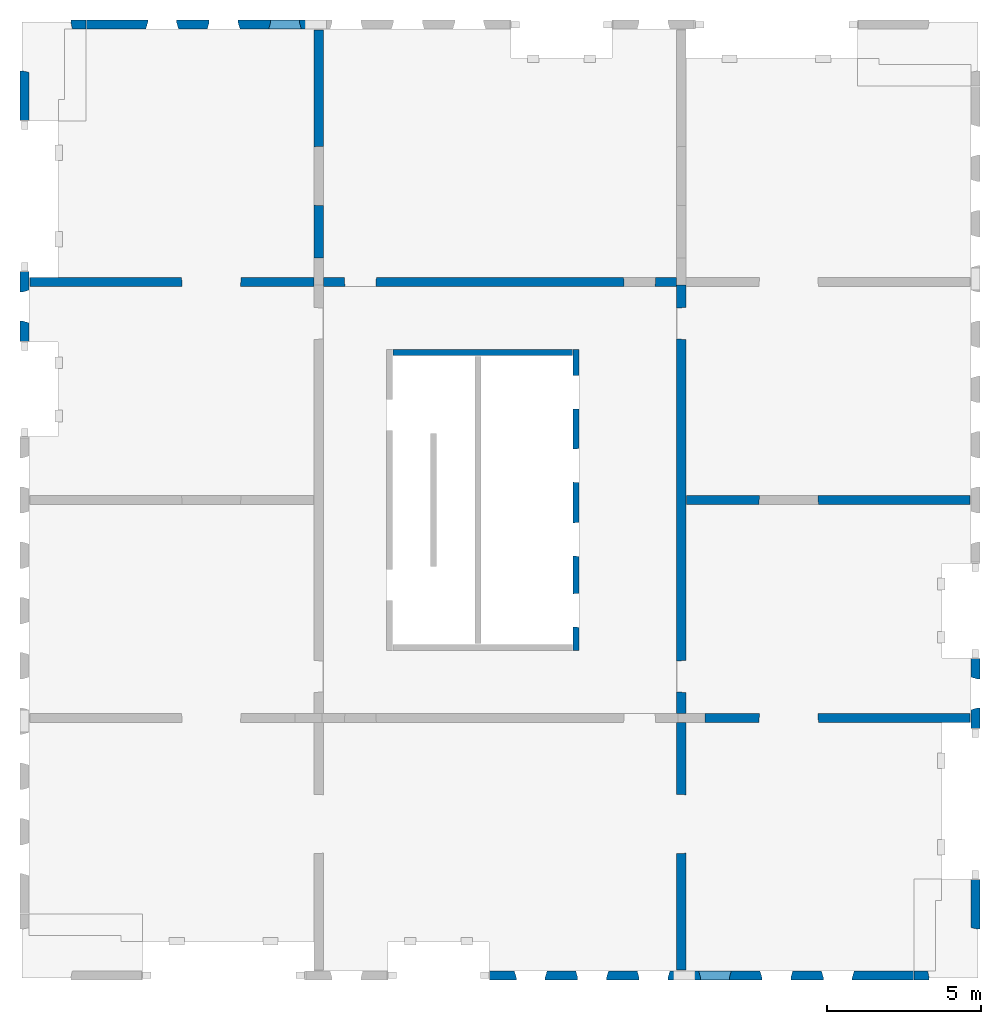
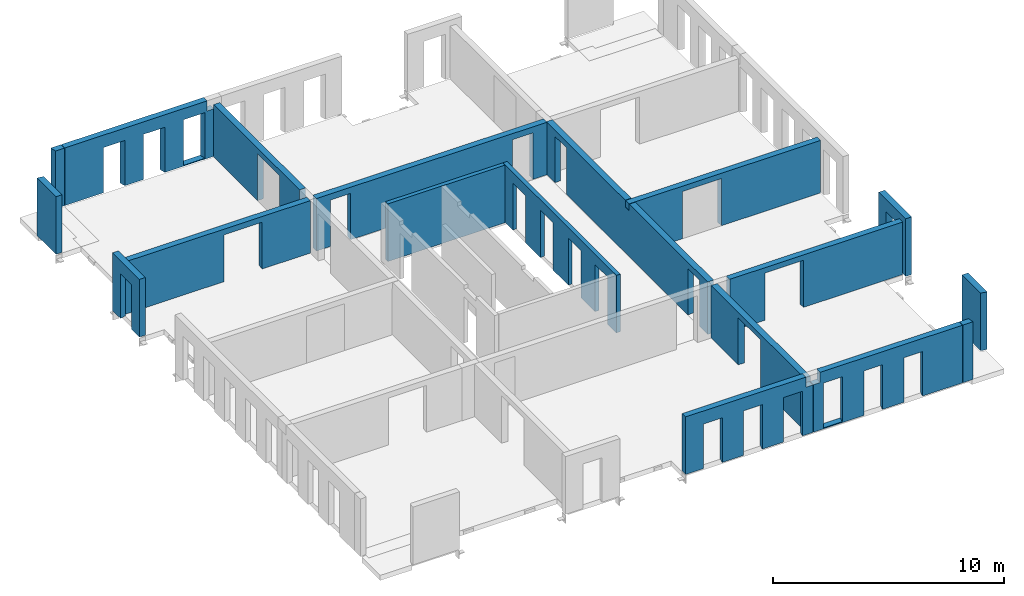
# One storey, part 3 of 4: 18 walls, 33 openings.
"""IFC2X3 building model written with IfcOpenShell, lengths in millimetres."""

from ifc_helpers import new_model, entity, si_unit, converted_unit, derived_unit, direction, frame, frame_2d, origin, origin_2d_with_axis, place, context, subcontext, project, spatial, rectangle, extrude, faceted_brep, material, layer, layer_set, layer_usage, type_object, element, save


model = new_model("IFC2X3")

# Units and contexts
model_context = context("Model", 3, precision=0.01, world=origin(), true_north=direction((6.12303176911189e-17, 1.0)))
body_context = subcontext(model_context, "Body", "Model", "MODEL_VIEW")
ifc_project = project(units=[si_unit("LENGTHUNIT", "METRE", prefix="MILLI"), si_unit("AREAUNIT", "SQUARE_METRE"), si_unit("VOLUMEUNIT", "CUBIC_METRE"), converted_unit("PLANEANGLEUNIT", "DEGREE", entity("IfcRatioMeasure", 0.0174532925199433), si_unit("PLANEANGLEUNIT", "RADIAN"), dimensions=[0, 0, 0, 0, 0, 0, 0]), si_unit("MASSUNIT", "GRAM", prefix="KILO"), derived_unit("MASSDENSITYUNIT", [(si_unit("MASSUNIT", "GRAM", prefix="KILO"), 1), (si_unit("LENGTHUNIT", "METRE"), -3)]), si_unit("TIMEUNIT", "SECOND"), si_unit("FREQUENCYUNIT", "HERTZ"), si_unit("THERMODYNAMICTEMPERATUREUNIT", "DEGREE_CELSIUS"), derived_unit("THERMALTRANSMITTANCEUNIT", [(si_unit("MASSUNIT", "GRAM", prefix="KILO"), 1), (si_unit("THERMODYNAMICTEMPERATUREUNIT", "KELVIN"), -1), (si_unit("TIMEUNIT", "SECOND"), -3)]), derived_unit("VOLUMETRICFLOWRATEUNIT", [(si_unit("LENGTHUNIT", "METRE"), 3), (si_unit("TIMEUNIT", "SECOND"), -1)]), si_unit("ELECTRICCURRENTUNIT", "AMPERE"), si_unit("ELECTRICVOLTAGEUNIT", "VOLT"), si_unit("POWERUNIT", "WATT"), si_unit("FORCEUNIT", "NEWTON", prefix="KILO"), si_unit("ILLUMINANCEUNIT", "LUX"), si_unit("LUMINOUSFLUXUNIT", "LUMEN"), si_unit("LUMINOUSINTENSITYUNIT", "CANDELA"), derived_unit("USERDEFINED", [(si_unit("MASSUNIT", "GRAM", prefix="KILO"), -1), (si_unit("LENGTHUNIT", "METRE"), -2), (si_unit("TIMEUNIT", "SECOND"), 3), (si_unit("LUMINOUSFLUXUNIT", "LUMEN"), 1)]), derived_unit("LINEARVELOCITYUNIT", [(si_unit("LENGTHUNIT", "METRE"), 1), (si_unit("TIMEUNIT", "SECOND"), -1)]), si_unit("PRESSUREUNIT", "PASCAL"), derived_unit("USERDEFINED", [(si_unit("LENGTHUNIT", "METRE"), -2), (si_unit("MASSUNIT", "GRAM", prefix="KILO"), 1), (si_unit("TIMEUNIT", "SECOND"), -2)])], contexts=[model_context])

# Site, building, storey
site_placement = place(None, origin())
site = spatial("IfcSite", under=ifc_project, at=site_placement, Name="Default", CompositionType="ELEMENT")
building_placement = place(site_placement, origin())
building = spatial("IfcBuilding", under=site, at=building_placement, Name="niet gebruiken", CompositionType="ELEMENT")
storey_placement = place(building_placement, frame((0.0, 0.0, 137340.0)))
storey = spatial("IfcBuildingStorey", under=building, at=storey_placement, Name="44 vierenveertigste verdieping", CompositionType="ELEMENT", Elevation=137340.0)

# Wall, openings
ifc_material = material(Name="NLRS_f2_beton prefab")
ifc_layer_1 = layer(ifc_material, 200.0)
ifc_layer_set_1 = layer_set([ifc_layer_1], Name="Basic Wall:NLRS_22.21_WA_beton prefab d=200_gen")
ifc_layer_usage_1 = layer_usage(ifc_layer_set_1, "AXIS2", "NEGATIVE", 100.0)
wall_type_1 = type_object("IfcWallType", Name="Basic Wall:NLRS_22.21_WA_beton prefab d=200_gen", PredefinedType="STANDARD", material=ifc_layer_set_1)
wall_1_placement = place(storey_placement, frame((144230.0, 22400.0, -50.0), z_axis=(0.0, 0.0, 1.0), x_axis=(0.0, -1.0, 0.0)))
wall_1 = element("IfcWallStandardCase", 1, at=wall_1_placement, inside=storey, type_object=wall_type_1, material=ifc_layer_usage_1, Name="Basic Wall:NLRS_22.21_WA_beton prefab d=200_gen", ObjectType="Basic Wall:NLRS_22.21_WA_beton prefab d=200_gen", context=body_context, shape_type="SweptSolid", body=[
    extrude(rectangle(XDim=9800.0, YDim=199.999999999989, at=frame_2d((4900.0, -3.69482222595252e-13), x_axis=(-1.0, 0.0))), origin(), (0.0, 0.0, 1.0), 3040.0),
])
opening_1_placement = place(wall_1_placement, frame((9047.0, -100.0, 0.0)))
element("IfcOpeningElement", 2, at=opening_1_placement, cuts=wall_1, Name="Basic Wall:NLRS_22.21_WA_beton prefab d=200_gen", ObjectType="Opening", context=body_context, shape_type="Brep", body=[
    faceted_brep([(-1104.0, 200.0, 2502.0), (-1104.0, 200.0, 0.0), (-1092.0, 0.0, 0.0), (-1092.0, 0.0, 2490.0), (0.0, 200.0, 0.0), (-12.0, 0.0, 0.0), (-12.0, 0.0, 2490.0), (0.0, 200.0, 2502.0)], [[[0, 1, 2, 3]], [[1, 4, 5, 2]], [[6, 3, 2, 5]], [[7, 4, 1, 0]], [[7, 0, 3, 6]], [[4, 7, 6, 5]]]),
])
opening_2_placement = place(wall_1_placement, frame((6737.0, -100.0, 0.0)))
element("IfcOpeningElement", 3, at=opening_2_placement, cuts=wall_1, Name="Basic Wall:NLRS_22.21_WA_beton prefab d=200_gen", ObjectType="Opening", context=body_context, shape_type="Brep", body=[
    faceted_brep([(-1104.0, 200.0, 2502.0), (-1104.0, 200.0, 0.0), (-1092.0, 0.0, 0.0), (-1092.0, 0.0, 2490.0), (0.0, 200.0, 0.0), (-12.0, 0.0, 0.0), (-12.0, 0.0, 2490.0), (0.0, 200.0, 2502.0)], [[[0, 1, 2, 3]], [[1, 4, 5, 2]], [[6, 3, 2, 5]], [[7, 4, 1, 0]], [[7, 0, 3, 6]], [[4, 7, 6, 5]]]),
])
opening_3_placement = place(wall_1_placement, frame((4332.0, -100.0, 0.0)))
element("IfcOpeningElement", 4, at=opening_3_placement, cuts=wall_1, Name="Basic Wall:NLRS_22.21_WA_beton prefab d=200_gen", ObjectType="Opening", context=body_context, shape_type="Brep", body=[
    faceted_brep([(-1104.0, 200.0, 2502.0), (-1104.0, 200.0, 0.0), (-1092.0, 0.0, 0.0), (-1092.0, 0.0, 2490.0), (0.0, 200.0, 0.0), (-12.0, 0.0, 0.0), (-12.0, 0.0, 2490.0), (0.0, 200.0, 2502.0)], [[[0, 1, 2, 3]], [[1, 4, 5, 2]], [[6, 3, 2, 5]], [[7, 4, 1, 0]], [[7, 0, 3, 6]], [[4, 7, 6, 5]]]),
])
opening_4_placement = place(wall_1_placement, frame((1942.0, -100.0, 0.0)))
element("IfcOpeningElement", 5, at=opening_4_placement, cuts=wall_1, Name="Basic Wall:NLRS_22.21_WA_beton prefab d=200_gen", ObjectType="Opening", context=body_context, shape_type="Brep", body=[
    faceted_brep([(-1104.0, 200.0, 2502.0), (-1104.0, 200.0, 0.0), (-1092.0, 0.0, 0.0), (-1092.0, 0.0, 2490.0), (0.0, 200.0, 0.0), (-12.0, 0.0, 0.0), (-12.0, 0.0, 2490.0), (0.0, 200.0, 2502.0)], [[[0, 1, 2, 3]], [[1, 4, 5, 2]], [[6, 3, 2, 5]], [[7, 4, 1, 0]], [[7, 0, 3, 6]], [[4, 7, 6, 5]]]),
])

# Wall
ifc_layer_usage_2 = layer_usage(ifc_layer_set_1, "AXIS2", "NEGATIVE", 100.0)
wall_2_placement = place(storey_placement, frame((138270.0, 22300.0, -50.0)))
element("IfcWallStandardCase", 6, at=wall_2_placement, inside=storey, type_object=wall_type_1, material=ifc_layer_usage_2, Name="Basic Wall:NLRS_22.21_WA_beton prefab d=200_gen", ObjectType="Basic Wall:NLRS_22.21_WA_beton prefab d=200_gen", context=body_context, shape_type="SweptSolid", body=[
    extrude(rectangle(XDim=5839.99999999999, YDim=199.999999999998, at=frame_2d((2919.99999999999, -7.60280727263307e-13), x_axis=(-1.0, 0.0))), origin(), (0.0, 0.0, 1.0), 3040.0),
])

# Wall, opening
ifc_layer_2 = layer(ifc_material, 300.0)
ifc_layer_set_2 = layer_set([ifc_layer_2], Name="Basic Wall:NLRS_22.21_WA_beton prefab d=300_gen")
ifc_layer_usage_3 = layer_usage(ifc_layer_set_2, "AXIS2", "NEGATIVE", 150.0)
wall_type_2 = type_object("IfcWallType", Name="Basic Wall:NLRS_22.21_WA_beton prefab d=300_gen", PredefinedType="STANDARD", material=ifc_layer_set_2)
wall_3_placement = place(storey_placement, frame((147650.0, 10250.0, -70.0), z_axis=(0.0, 0.0, 1.0), x_axis=(0.0, -1.0, 0.0)))
wall_3 = element("IfcWallStandardCase", 7, at=wall_3_placement, inside=storey, type_object=wall_type_2, material=ifc_layer_usage_3, Name="Basic Wall:NLRS_22.21_WA_beton prefab d=300_gen", ObjectType="Basic Wall:NLRS_22.21_WA_beton prefab d=300_gen", context=body_context, shape_type="SweptSolid", body=[
    extrude(rectangle(XDim=8059.99999999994, YDim=300.000000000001, at=frame_2d((4029.99999999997, 3.69482222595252e-13), x_axis=(-1.0, 0.0))), origin(), (0.0, 0.0, 1.0), 2769.99999999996),
])
opening_5_placement = place(wall_3_placement, frame((4268.0, -150.0, 0.0)))
element("IfcOpeningElement", 8, at=opening_5_placement, cuts=wall_3, Name="Basic Wall:NLRS_22.21_WA_beton prefab d=300_gen", ObjectType="Opening", context=body_context, shape_type="Brep", body=[
    faceted_brep([(-18.0, 300.0, 2470.0), (-18.0, 300.0, 0.0), (-1918.0, 300.0, 0.0), (-1918.0, 300.0, 2470.0), (0.0, 0.0, 2488.0), (-1936.0, 0.0, 2488.0), (-1936.0, 0.0, 0.0), (0.0, 0.0, 0.0)], [[[0, 1, 2, 3]], [[4, 5, 6, 7]], [[4, 0, 3, 5]], [[5, 3, 2, 6]], [[6, 2, 1, 7]], [[7, 1, 0, 4]]]),
])

# Wall, openings
ifc_layer_usage_4 = layer_usage(ifc_layer_set_2, "AXIS2", "NEGATIVE", 150.0)
wall_4_placement = place(storey_placement, frame((157060.0, 17500.0, -70.0), z_axis=(0.0, 0.0, 1.0), x_axis=(-1.0, 0.0, 0.0)))
wall_4 = element("IfcWallStandardCase", 9, at=wall_4_placement, inside=storey, type_object=wall_type_2, material=ifc_layer_usage_4, Name="Basic Wall:NLRS_22.21_WA_beton prefab d=300_gen", ObjectType="Basic Wall:NLRS_22.21_WA_beton prefab d=300_gen", context=body_context, shape_type="SweptSolid", body=[
    extrude(rectangle(XDim=9559.9999999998, YDim=300.000000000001, at=frame_2d((4779.9999999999, -1.84741111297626e-13), x_axis=(-1.0, 0.0))), origin(), (0.0, 0.0, 1.0), 2769.99999999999),
])
opening_6_placement = place(wall_4_placement, frame((6878.0, 150.0, 0.0)))
element("IfcOpeningElement", 10, at=opening_6_placement, cuts=wall_4, Name="Basic Wall:NLRS_22.21_WA_beton prefab d=300_gen", ObjectType="Opening", context=body_context, shape_type="Brep", body=[
    faceted_brep([(-18.0, -300.0, 2470.0), (-1918.0, -300.0, 2470.0), (-1918.0, -300.0, 0.0), (-18.0, -300.0, 0.0), (0.0, 0.0, 2488.0), (0.0, 0.0, 0.0), (-1936.0, 0.0, 0.0), (-1936.0, 0.0, 2488.0)], [[[0, 1, 2, 3]], [[4, 5, 6, 7]], [[4, 7, 1, 0]], [[7, 6, 2, 1]], [[6, 5, 3, 2]], [[5, 4, 0, 3]]]),
])
opening_7_placement = place(wall_4_placement, origin())
element("IfcOpeningElement", 11, at=opening_7_placement, cuts=wall_4, Name="Basic Wall:NLRS_22.21_WA_beton prefab d=300_gen", ObjectType="Opening", context=body_context, shape_type="SweptSolid", body=[
    extrude(rectangle(XDim=2439.99999999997, YDim=319.999999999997, at=frame_2d((0.0, 0.0), x_axis=(0.0, 1.0))), frame((9400.0, 150.0, 1220.0), z_axis=(0.0, -1.0, 0.0), x_axis=(1.0, 0.0, 0.0)), (0.0, 0.0, 1.0), 300.0),
])

# Wall, opening
ifc_layer_usage_5 = layer_usage(ifc_layer_set_2, "AXIS2", "NEGATIVE", 150.0)
wall_5_placement = place(storey_placement, frame((135700.0, 24600.0, -70.0), z_axis=(0.0, 0.0, 1.0), x_axis=(-1.0, 0.0, 0.0)))
wall_5 = element("IfcWallStandardCase", 12, at=wall_5_placement, inside=storey, type_object=wall_type_2, material=ifc_layer_usage_5, Name="Basic Wall:NLRS_22.21_WA_beton prefab d=300_gen", ObjectType="Basic Wall:NLRS_22.21_WA_beton prefab d=300_gen", context=body_context, shape_type="SweptSolid", body=[
    extrude(rectangle(XDim=9259.99999999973, YDim=300.000000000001, at=frame_2d((4629.99999999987, -2.41584530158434e-13), x_axis=(-1.0, 0.0))), origin(), (0.0, 0.0, 1.0), 2769.99999999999),
])
opening_8_placement = place(wall_5_placement, frame((4318.0, 150.0, 0.0)))
element("IfcOpeningElement", 13, at=opening_8_placement, cuts=wall_5, Name="Basic Wall:NLRS_22.21_WA_beton prefab d=300_gen", ObjectType="Opening", context=body_context, shape_type="Brep", body=[
    faceted_brep([(-1918.0, 0.0, 2470.0), (-18.0, 0.0, 2470.0), (-18.0, 0.0, 0.0), (-1918.0, 0.0, 0.0), (-1936.0, -300.0, 2488.0), (-1936.0, -300.0, 0.0), (0.0, -300.0, 0.0), (0.0, -300.0, 2488.0)], [[[0, 1, 2, 3]], [[4, 5, 6, 7]], [[4, 7, 1, 0]], [[7, 6, 2, 1]], [[6, 5, 3, 2]], [[5, 4, 0, 3]]]),
])

ifc_layer_usage_6 = layer_usage(ifc_layer_set_2, "AXIS2", "NEGATIVE", 150.0)
wall_6_placement = place(storey_placement, frame((148430.0, 10400.0, -70.0)))
wall_6 = element("IfcWallStandardCase", 14, at=wall_6_placement, inside=storey, type_object=wall_type_2, material=ifc_layer_usage_6, Name="Basic Wall:NLRS_22.21_WA_beton prefab d=300_gen", ObjectType="Basic Wall:NLRS_22.21_WA_beton prefab d=300_gen", context=body_context, shape_type="SweptSolid", body=[
    extrude(rectangle(XDim=8630.00000000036, YDim=300.000000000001, at=frame_2d((4315.00000000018, 0.0), x_axis=(-1.0, 0.0))), origin(), (0.0, 0.0, 1.0), 2769.99999999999),
])
opening_9_placement = place(wall_6_placement, frame((1752.0, -150.0, 0.0)))
element("IfcOpeningElement", 15, at=opening_9_placement, cuts=wall_6, Name="Basic Wall:NLRS_22.21_WA_beton prefab d=300_gen", ObjectType="Opening", context=body_context, shape_type="Brep", body=[
    faceted_brep([(18.0, 300.0, 2470.0), (1918.0, 300.0, 2470.0), (1918.0, 300.0, 0.0), (18.0, 300.0, 0.0), (0.0, 0.0, 2488.0), (0.0, 0.0, 0.0), (1936.0, 0.0, 0.0), (1936.0, 0.0, 2488.0)], [[[0, 1, 2, 3]], [[4, 5, 6, 7]], [[4, 7, 1, 0]], [[7, 6, 2, 1]], [[6, 5, 3, 2]], [[5, 4, 0, 3]]]),
])

ifc_layer_usage_7 = layer_usage(ifc_layer_set_2, "AXIS2", "NEGATIVE", 150.0)
wall_7_placement = place(storey_placement, frame((135850.0, 25380.0, -70.0), z_axis=(0.0, 0.0, 1.0), x_axis=(0.0, 1.0, 0.0)))
wall_7 = element("IfcWallStandardCase", 16, at=wall_7_placement, inside=storey, type_object=wall_type_2, material=ifc_layer_usage_7, Name="Basic Wall:NLRS_22.21_WA_beton prefab d=300_gen", ObjectType="Basic Wall:NLRS_22.21_WA_beton prefab d=300_gen", context=body_context, shape_type="SweptSolid", body=[
    extrude(rectangle(XDim=7430.00000000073, YDim=300.000000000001, at=frame_2d((3715.00000000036, -5.62749846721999e-12), x_axis=(-1.0, 0.0))), origin(), (0.0, 0.0, 1.0), 2769.99999999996),
])
opening_10_placement = place(wall_7_placement, frame((1702.0, 150.0, 0.0)))
element("IfcOpeningElement", 17, at=opening_10_placement, cuts=wall_7, Name="Basic Wall:NLRS_22.21_WA_beton prefab d=300_gen", ObjectType="Opening", context=body_context, shape_type="Brep", body=[
    faceted_brep([(1918.0, 0.0, 2470.0), (1918.0, 0.0, 0.0), (18.0, 0.0, 0.0), (18.0, 0.0, 2470.0), (1936.0, -300.0, 2488.0), (0.0, -300.0, 2488.0), (0.0, -300.0, 0.0), (1936.0, -300.0, 0.0)], [[[0, 1, 2, 3]], [[4, 5, 6, 7]], [[4, 0, 3, 5]], [[5, 3, 2, 6]], [[6, 2, 1, 7]], [[7, 1, 0, 4]]]),
])

# Wall, openings
ifc_layer_usage_8 = layer_usage(ifc_layer_set_2, "AXIS2", "NEGATIVE", 150.0)
wall_8_placement = place(storey_placement, frame((147650.0, 24500.0, -70.0), z_axis=(0.0, 0.0, 1.0), x_axis=(0.0, -1.0, 0.0)))
wall_8 = element("IfcWallStandardCase", 18, at=wall_8_placement, inside=storey, type_object=wall_type_2, material=ifc_layer_usage_8, Name="Basic Wall:NLRS_22.21_WA_beton prefab d=300_gen", ObjectType="Basic Wall:NLRS_22.21_WA_beton prefab d=300_gen", context=body_context, shape_type="SweptSolid", body=[
    extrude(rectangle(XDim=13949.9999999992, YDim=300.000000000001, at=frame_2d((6974.9999999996, 4.2632564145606e-14), x_axis=(-1.0, 0.0))), origin(), (0.0, 0.0, 1.0), 2769.99999999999),
])
opening_11_placement = place(wall_8_placement, frame((13268.0, -150.0, 0.0)))
element("IfcOpeningElement", 19, at=opening_11_placement, cuts=wall_8, Name="Basic Wall:NLRS_22.21_WA_beton prefab d=300_gen", ObjectType="Opening", context=body_context, shape_type="Brep", body=[
    faceted_brep([(-1042.0, 300.0, 2466.0), (-1042.0, 300.0, 0.0), (-1024.0, 0.0, 0.0), (-1024.0, 0.0, 2448.0), (0.0, 300.0, 0.0), (-18.0, 0.0, 0.0), (-18.0, 0.0, 2448.0), (0.0, 300.0, 2466.0)], [[[0, 1, 2, 3]], [[1, 4, 5, 2]], [[6, 3, 2, 5]], [[7, 4, 1, 0]], [[7, 0, 3, 6]], [[4, 7, 6, 5]]]),
])
opening_12_placement = place(wall_8_placement, frame((1774.0, -150.0, 0.0)))
element("IfcOpeningElement", 20, at=opening_12_placement, cuts=wall_8, Name="Basic Wall:NLRS_22.21_WA_beton prefab d=300_gen", ObjectType="Opening", context=body_context, shape_type="Brep", body=[
    faceted_brep([(-1042.0, 300.0, 2466.0), (-1042.0, 300.0, 0.0), (-1024.0, 0.0, 0.0), (-1024.0, 0.0, 2448.0), (0.0, 300.0, 0.0), (-18.0, 0.0, 0.0), (-18.0, 0.0, 2448.0), (0.0, 300.0, 2466.0)], [[[0, 1, 2, 3]], [[1, 4, 5, 2]], [[6, 3, 2, 5]], [[7, 4, 1, 0]], [[7, 0, 3, 6]], [[4, 7, 6, 5]]]),
])
opening_13_placement = place(wall_8_placement, origin())
element("IfcOpeningElement", 21, at=opening_13_placement, cuts=wall_8, Name="Basic Wall:NLRS_22.21_WA_beton prefab d=300_gen", ObjectType="Opening", context=body_context, shape_type="SweptSolid", body=[
    extrude(rectangle(XDim=350.000000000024, YDim=340.000000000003, at=frame_2d((-1.08002495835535e-12, 0.0), x_axis=(0.0, 1.0))), frame((7000.0, 150.0, 2595.0), z_axis=(0.0, -1.0, 0.0), x_axis=(-1.0, 0.0, 0.0)), (0.0, 0.0, 1.0), 300.0),
])

ifc_layer_usage_9 = layer_usage(ifc_layer_set_2, "AXIS2", "NEGATIVE", 150.0)
wall_9_placement = place(storey_placement, frame((136000.0, 24600.0, -70.0)))
wall_9 = element("IfcWallStandardCase", 22, at=wall_9_placement, inside=storey, type_object=wall_type_2, material=ifc_layer_usage_9, Name="Basic Wall:NLRS_22.21_WA_beton prefab d=300_gen", ObjectType="Basic Wall:NLRS_22.21_WA_beton prefab d=300_gen", context=body_context, shape_type="SweptSolid", body=[
    extrude(rectangle(XDim=11500.0, YDim=300.000000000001, at=frame_2d((5750.0, -1.08002495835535e-12), x_axis=(-1.0, 0.0))), origin(), (0.0, 0.0, 1.0), 2769.99999999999),
])
opening_14_placement = place(wall_9_placement, frame((682.0, -150.0, 0.0)))
element("IfcOpeningElement", 23, at=opening_14_placement, cuts=wall_9, Name="Basic Wall:NLRS_22.21_WA_beton prefab d=300_gen", ObjectType="Opening", context=body_context, shape_type="Brep", body=[
    faceted_brep([(0.0, 300.0, 2466.0), (0.0, 300.0, 0.0), (18.0, 0.0, 0.0), (18.0, 0.0, 2448.0), (1042.0, 300.0, 0.0), (1024.0, 0.0, 0.0), (1024.0, 0.0, 2448.0), (1042.0, 300.0, 2466.0)], [[[0, 1, 2, 3]], [[1, 4, 5, 2]], [[6, 3, 2, 5]], [[7, 4, 1, 0]], [[7, 0, 3, 6]], [[4, 7, 6, 5]]]),
])
opening_15_placement = place(wall_9_placement, frame((9776.0, -150.0, 0.0)))
element("IfcOpeningElement", 24, at=opening_15_placement, cuts=wall_9, Name="Basic Wall:NLRS_22.21_WA_beton prefab d=300_gen", ObjectType="Opening", context=body_context, shape_type="Brep", body=[
    faceted_brep([(0.0, 300.0, 2466.0), (0.0, 300.0, 0.0), (18.0, 0.0, 0.0), (18.0, 0.0, 2448.0), (1042.0, 300.0, 0.0), (1024.0, 0.0, 0.0), (1024.0, 0.0, 2448.0), (1042.0, 300.0, 2466.0)], [[[0, 1, 2, 3]], [[1, 4, 5, 2]], [[6, 3, 2, 5]], [[7, 4, 1, 0]], [[7, 0, 3, 6]], [[4, 7, 6, 5]]]),
])

# Wall, opening
ifc_layer_3 = layer(ifc_material, 300.0)
ifc_layer_set_3 = layer_set([ifc_layer_3], Name="Basic Wall:NLRS_21.21_WA_beton prefab d=300/320_gen")
ifc_layer_usage_10 = layer_usage(ifc_layer_set_3, "AXIS2", "NEGATIVE", 150.0)
wall_type_3 = type_object("IfcWallType", Name="Basic Wall:NLRS_21.21_WA_beton prefab d=300/320_gen", PredefinedType="STANDARD", material=ifc_layer_set_3)
wall_10_placement = place(storey_placement, frame((157230.0, 12360.0, -50.0), z_axis=(0.0, 0.0, 1.0), x_axis=(0.0, -1.0, 0.0)))
wall_10 = element("IfcWallStandardCase", 25, at=wall_10_placement, inside=storey, type_object=wall_type_3, material=ifc_layer_usage_10, Name="Basic Wall:NLRS_21.21_WA_beton prefab d=300/320_gen", ObjectType="Basic Wall:NLRS_21.21_WA_beton prefab d=300/320_gen", context=body_context, shape_type="SweptSolid", body=[
    extrude(rectangle(XDim=2320.00000000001, YDim=300.000000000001, at=frame_2d((1160.0, -8.38440428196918e-12), x_axis=(-1.0, 0.0))), origin(), (0.0, 0.0, 1.0), 3040.0),
])
opening_16_placement = place(wall_10_placement, frame((1695.0, -150.0, -20.0)))
element("IfcOpeningElement", 26, at=opening_16_placement, cuts=wall_10, Name="Basic Wall:NLRS_21.21_WA_beton prefab d=300/320_gen", ObjectType="Opening", context=body_context, shape_type="Brep", body=[
    faceted_brep([(-1070.0, 0.0, 2405.0), (-1070.0, 0.0, 0.0), (0.0, 0.0, 0.0), (0.0, 0.0, 2405.0), (-65.0, 219.0, 2370.0), (-1005.0, 219.0, 2370.0), (-65.0, 219.0, 0.0), (-1005.0, 219.0, 0.0), (-1005.0, 300.0, 0.0), (-65.0, 300.0, 0.0), (-1005.0, 300.0, 2370.0), (-65.0, 300.0, 2370.0)], [[[0, 1, 2, 3]], [[3, 4, 5, 0]], [[2, 6, 4, 3]], [[1, 7, 8, 9, 6, 2]], [[0, 5, 7, 1]], [[10, 11, 9, 8]], [[10, 5, 4, 11]], [[11, 4, 6, 9]], [[8, 7, 5, 10]]]),
])

ifc_layer_usage_11 = layer_usage(ifc_layer_set_3, "AXIS2", "NEGATIVE", 150.0)
wall_11_placement = place(storey_placement, frame((126270.0, 22640.0, -50.0), z_axis=(0.0, 0.0, 1.0), x_axis=(0.0, 1.0, 0.0)))
wall_11 = element("IfcWallStandardCase", 27, at=wall_11_placement, inside=storey, type_object=wall_type_3, material=ifc_layer_usage_11, Name="Basic Wall:NLRS_21.21_WA_beton prefab d=300/320_gen", ObjectType="Basic Wall:NLRS_21.21_WA_beton prefab d=300/320_gen", context=body_context, shape_type="SweptSolid", body=[
    extrude(rectangle(XDim=2320.0, YDim=300.000000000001, at=frame_2d((1160.0, -3.60955709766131e-12), x_axis=(-1.0, 0.0))), origin(), (0.0, 0.0, 1.0), 3040.0),
])
opening_17_placement = place(wall_11_placement, frame((625.0, 150.0, -20.0)))
element("IfcOpeningElement", 28, at=opening_17_placement, cuts=wall_11, Name="Basic Wall:NLRS_21.21_WA_beton prefab d=300/320_gen", ObjectType="Opening", context=body_context, shape_type="Brep", body=[
    faceted_brep([(0.0, -300.0, 2405.0), (0.0, -300.0, 0.0), (1070.0, -300.0, 0.0), (1070.0, -300.0, 2405.0), (1005.0, -81.0, 2370.0), (65.0, -81.0, 2370.0), (1005.0, -81.0, 0.0), (65.0, -81.0, 0.0), (65.0, 0.0, 0.0), (1005.0, 0.0, 0.0), (65.0, 0.0, 2370.0), (1005.0, 0.0, 2370.0)], [[[0, 1, 2, 3]], [[3, 4, 5, 0]], [[2, 6, 4, 3]], [[1, 7, 8, 9, 6, 2]], [[0, 5, 7, 1]], [[10, 11, 9, 8]], [[10, 5, 4, 11]], [[11, 4, 6, 9]], [[8, 7, 5, 10]]]),
])

# Wall, openings
ifc_layer_usage_12 = layer_usage(ifc_layer_set_3, "AXIS2", "NEGATIVE", 150.0)
wall_12_placement = place(storey_placement, frame((128290.0, 32980.0, -50.0)))
wall_12 = element("IfcWallStandardCase", 29, at=wall_12_placement, inside=storey, type_object=wall_type_3, material=ifc_layer_usage_12, Name="Basic Wall:NLRS_21.21_WA_beton prefab d=300/320_gen", ObjectType="Basic Wall:NLRS_21.21_WA_beton prefab d=300/320_gen", context=body_context, shape_type="SweptSolid", body=[
    extrude(rectangle(XDim=7449.9999999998, YDim=300.000000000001, at=frame_2d((3724.9999999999, 0.0), x_axis=(-1.0, 0.0))), origin(), (0.0, 0.0, 1.0), 3040.0),
])
opening_18_placement = place(wall_12_placement, frame((3925.0, -150.0, -20.0)))
element("IfcOpeningElement", 30, at=opening_18_placement, cuts=wall_12, Name="Basic Wall:NLRS_21.21_WA_beton prefab d=300/320_gen", ObjectType="Opening", context=body_context, shape_type="Brep", body=[
    faceted_brep([(1070.0, 0.0, 2405.0), (0.0, 0.0, 2405.0), (0.0, 0.0, 0.0), (1070.0, 0.0, 0.0), (1005.0, 219.0, 2370.0), (65.0, 219.0, 2370.0), (65.0, 219.0, 0.0), (65.0, 300.0, 0.0), (1005.0, 300.0, 0.0), (1005.0, 219.0, 0.0), (1005.0, 300.0, 2370.0), (65.0, 300.0, 2370.0)], [[[0, 1, 2, 3]], [[1, 0, 4, 5]], [[2, 1, 5, 6]], [[3, 2, 6, 7, 8, 9]], [[0, 3, 9, 4]], [[10, 8, 7, 11]], [[10, 11, 5, 4]], [[11, 7, 6, 5]], [[8, 10, 4, 9]]]),
])
opening_19_placement = place(wall_12_placement, frame((1925.0, -150.0, -20.0)))
element("IfcOpeningElement", 31, at=opening_19_placement, cuts=wall_12, Name="Basic Wall:NLRS_21.21_WA_beton prefab d=300/320_gen", ObjectType="Opening", context=body_context, shape_type="Brep", body=[
    faceted_brep([(1070.0, 0.0, 2405.0), (0.0, 0.0, 2405.0), (0.0, 0.0, 0.0), (1070.0, 0.0, 0.0), (1005.0, 219.0, 2370.0), (65.0, 219.0, 2370.0), (65.0, 219.0, 0.0), (65.0, 300.0, 0.0), (1005.0, 300.0, 0.0), (1005.0, 219.0, 0.0), (1005.0, 300.0, 2370.0), (65.0, 300.0, 2370.0)], [[[0, 1, 2, 3]], [[1, 0, 4, 5]], [[2, 1, 5, 6]], [[3, 2, 6, 7, 8, 9]], [[0, 3, 9, 4]], [[10, 8, 7, 11]], [[10, 11, 5, 4]], [[11, 7, 6, 5]], [[8, 10, 4, 9]]]),
])
opening_20_placement = place(wall_12_placement, frame((5925.0, -150.0, 50.0)))
element("IfcOpeningElement", 32, at=opening_20_placement, cuts=wall_12, Name="Basic Wall:NLRS_21.21_WA_beton prefab d=300/320_gen", ObjectType="Opening", context=body_context, shape_type="Brep", body=[
    faceted_brep([(1070.0, 0.0, 2405.0), (0.0, 0.0, 2405.0), (0.0, 0.0, 0.0), (1070.0, 0.0, 0.0), (1005.0, 219.0, 2370.0), (65.0, 219.0, 2370.0), (65.0, 219.0, 0.0), (65.0, 300.0, 0.0), (1005.0, 300.0, 0.0), (1005.0, 219.0, 0.0), (1005.0, 300.0, 2370.0), (65.0, 300.0, 2370.0)], [[[0, 1, 2, 3]], [[1, 0, 4, 5]], [[2, 1, 5, 6]], [[3, 2, 6, 7, 8, 9]], [[0, 3, 9, 4]], [[10, 8, 7, 11]], [[10, 11, 5, 4]], [[11, 7, 6, 5]], [[8, 10, 4, 9]]]),
])
opening_21_placement = place(wall_12_placement, origin())
element("IfcOpeningElement", 33, at=opening_21_placement, cuts=wall_12, Name="Basic Wall:NLRS_21.21_WA_beton prefab d=300/320_gen", ObjectType="Opening", context=body_context, shape_type="SweptSolid", body=[
    extrude(rectangle(XDim=535.0, YDim=344.999999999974, at=origin_2d_with_axis()), frame((7277.49999999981, 150.0, 2772.5), z_axis=(0.0, -1.0, 0.0), x_axis=(0.0, 0.0, 1.0)), (0.0, 0.0, 1.0), 300.0),
])

ifc_layer_usage_13 = layer_usage(ifc_layer_set_3, "AXIS2", "NEGATIVE", 150.0)
wall_13_placement = place(storey_placement, frame((155210.0, 2020.0, -50.0), z_axis=(0.0, 0.0, 1.0), x_axis=(-1.0, 0.0, 0.0)))
wall_13 = element("IfcWallStandardCase", 34, at=wall_13_placement, inside=storey, type_object=wall_type_3, material=ifc_layer_usage_13, Name="Basic Wall:NLRS_21.21_WA_beton prefab d=300/320_gen", ObjectType="Basic Wall:NLRS_21.21_WA_beton prefab d=300/320_gen", context=body_context, shape_type="SweptSolid", body=[
    extrude(rectangle(XDim=7449.99999999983, YDim=300.0, at=frame_2d((3724.99999999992, 5.6843418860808e-14), x_axis=(-1.0, 0.0))), origin(), (0.0, 0.0, 1.0), 3040.0),
])
opening_22_placement = place(wall_13_placement, frame((4995.0, 150.0, -20.0)))
element("IfcOpeningElement", 35, at=opening_22_placement, cuts=wall_13, Name="Basic Wall:NLRS_21.21_WA_beton prefab d=300/320_gen", ObjectType="Opening", context=body_context, shape_type="Brep", body=[
    faceted_brep([(0.0, -300.0, 2405.0), (-1070.0, -300.0, 2405.0), (-1070.0, -300.0, 0.0), (0.0, -300.0, 0.0), (-65.0, -81.0, 2370.0), (-1005.0, -81.0, 2370.0), (-1005.0, -81.0, 0.0), (-1005.0, 0.0, 0.0), (-65.0, 0.0, 0.0), (-65.0, -81.0, 0.0), (-65.0, 0.0, 2370.0), (-1005.0, 0.0, 2370.0)], [[[0, 1, 2, 3]], [[1, 0, 4, 5]], [[2, 1, 5, 6]], [[3, 2, 6, 7, 8, 9]], [[0, 3, 9, 4]], [[10, 8, 7, 11]], [[10, 11, 5, 4]], [[11, 7, 6, 5]], [[8, 10, 4, 9]]]),
])
opening_23_placement = place(wall_13_placement, frame((2995.0, 150.0, -20.0)))
element("IfcOpeningElement", 36, at=opening_23_placement, cuts=wall_13, Name="Basic Wall:NLRS_21.21_WA_beton prefab d=300/320_gen", ObjectType="Opening", context=body_context, shape_type="Brep", body=[
    faceted_brep([(0.0, -300.0, 2405.0), (-1070.0, -300.0, 2405.0), (-1070.0, -300.0, 0.0), (0.0, -300.0, 0.0), (-65.0, -81.0, 2370.0), (-1005.0, -81.0, 2370.0), (-1005.0, -81.0, 0.0), (-1005.0, 0.0, 0.0), (-65.0, 0.0, 0.0), (-65.0, -81.0, 0.0), (-65.0, 0.0, 2370.0), (-1005.0, 0.0, 2370.0)], [[[0, 1, 2, 3]], [[1, 0, 4, 5]], [[2, 1, 5, 6]], [[3, 2, 6, 7, 8, 9]], [[0, 3, 9, 4]], [[10, 8, 7, 11]], [[10, 11, 5, 4]], [[11, 7, 6, 5]], [[8, 10, 4, 9]]]),
])
opening_24_placement = place(wall_13_placement, frame((6995.0, 150.0, 50.0)))
element("IfcOpeningElement", 37, at=opening_24_placement, cuts=wall_13, Name="Basic Wall:NLRS_21.21_WA_beton prefab d=300/320_gen", ObjectType="Opening", context=body_context, shape_type="Brep", body=[
    faceted_brep([(0.0, -300.0, 2405.0), (-1070.0, -300.0, 2405.0), (-1070.0, -300.0, 0.0), (0.0, -300.0, 0.0), (-65.0, -81.0, 2370.0), (-1005.0, -81.0, 2370.0), (-1005.0, -81.0, 0.0), (-1005.0, 0.0, 0.0), (-65.0, 0.0, 0.0), (-65.0, -81.0, 0.0), (-65.0, 0.0, 2370.0), (-1005.0, 0.0, 2370.0)], [[[0, 1, 2, 3]], [[1, 0, 4, 5]], [[2, 1, 5, 6]], [[3, 2, 6, 7, 8, 9]], [[0, 3, 9, 4]], [[10, 8, 7, 11]], [[10, 11, 5, 4]], [[11, 7, 6, 5]], [[8, 10, 4, 9]]]),
])
opening_25_placement = place(wall_13_placement, origin())
element("IfcOpeningElement", 38, at=opening_25_placement, cuts=wall_13, Name="Basic Wall:NLRS_21.21_WA_beton prefab d=300/320_gen", ObjectType="Opening", context=body_context, shape_type="SweptSolid", body=[
    extrude(rectangle(XDim=535.0, YDim=344.999999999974, at=origin_2d_with_axis()), frame((7277.49999999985, 150.0, 2772.5), z_axis=(0.0, -1.0, 0.0), x_axis=(0.0, 0.0, 1.0)), (0.0, 0.0, 1.0), 300.0),
])

# Wall, opening
ifc_layer_usage_14 = layer_usage(ifc_layer_set_3, "AXIS2", "NEGATIVE", 150.0)
wall_14_placement = place(storey_placement, frame((127780.0, 32980.0, -50.0)))
wall_14 = element("IfcWallStandardCase", 39, at=wall_14_placement, inside=storey, type_object=wall_type_3, material=ifc_layer_usage_14, Name="Basic Wall:NLRS_21.21_WA_beton prefab d=300/320_gen", ObjectType="Basic Wall:NLRS_21.21_WA_beton prefab d=300/320_gen", context=body_context, shape_type="SweptSolid", body=[
    extrude(rectangle(XDim=489.999999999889, YDim=300.000000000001, at=frame_2d((244.999999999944, -6.67910171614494e-13), x_axis=(-1.0, 0.0))), origin(), (0.0, 0.0, 1.0), 3040.0),
])
opening_26_placement = place(wall_14_placement, frame((0.0, -250.0, 0.0)))
element("IfcOpeningElement", 40, at=opening_26_placement, cuts=wall_14, Name="Basic Wall:NLRS_21.21_WA_beton prefab d=300/320_gen", ObjectType="Opening", context=body_context, shape_type="Brep", body=[
    faceted_brep([(0.0, 0.0, 3040.0), (65.0, 0.0, 3040.0), (0.0, 319.0, 3040.0), (0.0, 0.0, 0.0), (0.0, 319.0, 0.0), (65.0, 0.0, 0.0)], [[[0, 1, 2]], [[3, 4, 5]], [[1, 0, 3, 5]], [[0, 2, 4, 3]], [[2, 1, 5, 4]]]),
])

ifc_layer_usage_15 = layer_usage(ifc_layer_set_3, "AXIS2", "NEGATIVE", 150.0)
wall_15_placement = place(storey_placement, frame((126270.0, 29840.0, -50.0), z_axis=(0.0, 0.0, 1.0), x_axis=(0.0, 1.0, 0.0)))
wall_15 = element("IfcWallStandardCase", 41, at=wall_15_placement, inside=storey, type_object=wall_type_3, material=ifc_layer_usage_15, Name="Basic Wall:NLRS_21.21_WA_beton prefab d=300/320_gen", ObjectType="Basic Wall:NLRS_21.21_WA_beton prefab d=300/320_gen", context=body_context, shape_type="SweptSolid", body=[
    extrude(rectangle(XDim=1629.99999999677, YDim=300.000000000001, at=frame_2d((814.999999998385, 8.95283847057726e-13), x_axis=(-1.0, 0.0))), origin(), (0.0, 0.0, 1.0), 3040.0),
])
opening_27_placement = place(wall_15_placement, frame((1565.0, 69.0, 0.0)))
element("IfcOpeningElement", 42, at=opening_27_placement, cuts=wall_15, Name="Basic Wall:NLRS_21.21_WA_beton prefab d=300/320_gen", ObjectType="Opening", context=body_context, shape_type="Brep", body=[
    faceted_brep([(65.0, -319.0, 3040.0), (65.0, 0.0, 3040.0), (0.0, -319.0, 3040.0), (65.0, -319.0, 0.0), (0.0, -319.0, 0.0), (65.0, 0.0, 0.0)], [[[0, 1, 2]], [[3, 4, 5]], [[2, 4, 3, 0]], [[0, 3, 5, 1]], [[1, 5, 4, 2]]]),
])

ifc_layer_usage_16 = layer_usage(ifc_layer_set_3, "AXIS2", "NEGATIVE", 150.0)
wall_16_placement = place(storey_placement, frame((155720.0, 2020.0, -50.0), z_axis=(0.0, 0.0, 1.0), x_axis=(-1.0, 0.0, 0.0)))
wall_16 = element("IfcWallStandardCase", 43, at=wall_16_placement, inside=storey, type_object=wall_type_3, material=ifc_layer_usage_16, Name="Basic Wall:NLRS_21.21_WA_beton prefab d=300/320_gen", ObjectType="Basic Wall:NLRS_21.21_WA_beton prefab d=300/320_gen", context=body_context, shape_type="SweptSolid", body=[
    extrude(rectangle(XDim=489.999999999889, YDim=300.0, at=frame_2d((244.999999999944, 4.2632564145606e-14), x_axis=(-1.0, 0.0))), origin(), (0.0, 0.0, 1.0), 3040.0),
])
opening_28_placement = place(wall_16_placement, frame((65.0, 69.0, 0.0)))
element("IfcOpeningElement", 44, at=opening_28_placement, cuts=wall_16, Name="Basic Wall:NLRS_21.21_WA_beton prefab d=300/320_gen", ObjectType="Opening", context=body_context, shape_type="Brep", body=[
    faceted_brep([(-65.0, -319.0, 3040.0), (0.0, -319.0, 3040.0), (-65.0, 0.0, 3040.0), (-65.0, -319.0, 0.0), (-65.0, 0.0, 0.0), (0.0, -319.0, 0.0)], [[[0, 1, 2]], [[3, 4, 5]], [[1, 0, 3, 5]], [[0, 2, 4, 3]], [[2, 1, 5, 4]]]),
])

ifc_layer_usage_17 = layer_usage(ifc_layer_set_3, "AXIS2", "NEGATIVE", 150.0)
wall_17_placement = place(storey_placement, frame((157230.0, 5160.0, -50.0), z_axis=(0.0, 0.0, 1.0), x_axis=(0.0, -1.0, 0.0)))
wall_17 = element("IfcWallStandardCase", 45, at=wall_17_placement, inside=storey, type_object=wall_type_3, material=ifc_layer_usage_17, Name="Basic Wall:NLRS_21.21_WA_beton prefab d=300/320_gen", ObjectType="Basic Wall:NLRS_21.21_WA_beton prefab d=300/320_gen", context=body_context, shape_type="SweptSolid", body=[
    extrude(rectangle(XDim=1629.99999999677, YDim=300.000000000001, at=frame_2d((814.999999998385, 4.76063632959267e-12), x_axis=(-1.0, 0.0))), origin(), (0.0, 0.0, 1.0), 3040.0),
])
opening_29_placement = place(wall_17_placement, frame((1630.0, -250.0, 0.0)))
element("IfcOpeningElement", 46, at=opening_29_placement, cuts=wall_17, Name="Basic Wall:NLRS_21.21_WA_beton prefab d=300/320_gen", ObjectType="Opening", context=body_context, shape_type="Brep", body=[
    faceted_brep([(0.0, 0.0, 3040.0), (0.0, 319.0, 3040.0), (-65.0, 0.0, 3040.0), (0.0, 0.0, 0.0), (-65.0, 0.0, 0.0), (0.0, 319.0, 0.0)], [[[0, 1, 2]], [[3, 4, 5]], [[2, 4, 3, 0]], [[0, 3, 5, 1]], [[1, 5, 4, 2]]]),
])

# Wall, openings
ifc_layer_usage_18 = layer_usage(ifc_layer_set_3, "AXIS2", "NEGATIVE", 150.0)
wall_18_placement = place(storey_placement, frame((147740.0, 2020.0, -50.0), z_axis=(0.0, 0.0, 1.0), x_axis=(-1.0, 0.0, 0.0)))
wall_18 = element("IfcWallStandardCase", 47, at=wall_18_placement, inside=storey, type_object=wall_type_3, material=ifc_layer_usage_18, Name="Basic Wall:NLRS_21.21_WA_beton prefab d=300/320_gen", ObjectType="Basic Wall:NLRS_21.21_WA_beton prefab d=300/320_gen", context=body_context, shape_type="SweptSolid", body=[
    extrude(rectangle(XDim=6350.00000000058, YDim=300.0, at=frame_2d((3175.00000000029, -4.2632564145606e-14), x_axis=(-1.0, 0.0))), origin(), (0.0, 0.0, 1.0), 3040.0),
])
opening_30_placement = place(wall_18_placement, frame((1525.0, 150.0, -20.0)))
element("IfcOpeningElement", 48, at=opening_30_placement, cuts=wall_18, Name="Basic Wall:NLRS_21.21_WA_beton prefab d=300/320_gen", ObjectType="Opening", context=body_context, shape_type="Brep", body=[
    faceted_brep([(0.0, -300.0, 2405.0), (-1070.0, -300.0, 2405.0), (-1070.0, -300.0, 0.0), (0.0, -300.0, 0.0), (-65.0, -81.0, 2370.0), (-1005.0, -81.0, 2370.0), (-1005.0, -81.0, 0.0), (-1005.0, 0.0, 0.0), (-65.0, 0.0, 0.0), (-65.0, -81.0, 0.0), (-65.0, 0.0, 2370.0), (-1005.0, 0.0, 2370.0)], [[[0, 1, 2, 3]], [[1, 0, 4, 5]], [[2, 1, 5, 6]], [[3, 2, 6, 7, 8, 9]], [[0, 3, 9, 4]], [[10, 8, 7, 11]], [[10, 11, 5, 4]], [[11, 7, 6, 5]], [[8, 10, 4, 9]]]),
])
opening_31_placement = place(wall_18_placement, frame((3525.0, 150.0, -20.0)))
element("IfcOpeningElement", 49, at=opening_31_placement, cuts=wall_18, Name="Basic Wall:NLRS_21.21_WA_beton prefab d=300/320_gen", ObjectType="Opening", context=body_context, shape_type="Brep", body=[
    faceted_brep([(0.0, -300.0, 2405.0), (-1070.0, -300.0, 2405.0), (-1070.0, -300.0, 0.0), (0.0, -300.0, 0.0), (-65.0, -81.0, 2370.0), (-1005.0, -81.0, 2370.0), (-1005.0, -81.0, 0.0), (-1005.0, 0.0, 0.0), (-65.0, 0.0, 0.0), (-65.0, -81.0, 0.0), (-65.0, 0.0, 2370.0), (-1005.0, 0.0, 2370.0)], [[[0, 1, 2, 3]], [[1, 0, 4, 5]], [[2, 1, 5, 6]], [[3, 2, 6, 7, 8, 9]], [[0, 3, 9, 4]], [[10, 8, 7, 11]], [[10, 11, 5, 4]], [[11, 7, 6, 5]], [[8, 10, 4, 9]]]),
])
opening_32_placement = place(wall_18_placement, frame((5525.0, 150.0, -20.0)))
element("IfcOpeningElement", 50, at=opening_32_placement, cuts=wall_18, Name="Basic Wall:NLRS_21.21_WA_beton prefab d=300/320_gen", ObjectType="Opening", context=body_context, shape_type="Brep", body=[
    faceted_brep([(0.0, -300.0, 2405.0), (-1070.0, -300.0, 2405.0), (-1070.0, -300.0, 0.0), (0.0, -300.0, 0.0), (-65.0, -81.0, 2370.0), (-1005.0, -81.0, 2370.0), (-1005.0, -81.0, 0.0), (-1005.0, 0.0, 0.0), (-65.0, 0.0, 0.0), (-65.0, -81.0, 0.0), (-65.0, 0.0, 2370.0), (-1005.0, 0.0, 2370.0)], [[[0, 1, 2, 3]], [[1, 0, 4, 5]], [[2, 1, 5, 6]], [[3, 2, 6, 7, 8, 9]], [[0, 3, 9, 4]], [[10, 8, 7, 11]], [[10, 11, 5, 4]], [[11, 7, 6, 5]], [[8, 10, 4, 9]]]),
])
opening_33_placement = place(wall_18_placement, origin())
element("IfcOpeningElement", 51, at=opening_33_placement, cuts=wall_18, Name="Basic Wall:NLRS_21.21_WA_beton prefab d=300/320_gen", ObjectType="Opening", context=body_context, shape_type="SweptSolid", body=[
    extrude(rectangle(XDim=534.999999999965, YDim=345.000000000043, at=frame_2d((0.0, 0.0), x_axis=(0.0, 1.0))), frame((172.500000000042, 150.0, 2772.5), z_axis=(0.0, -1.0, 0.0), x_axis=(-1.0, 0.0, 0.0)), (0.0, 0.0, 1.0), 300.0),
])

save(model, "model.ifc")
